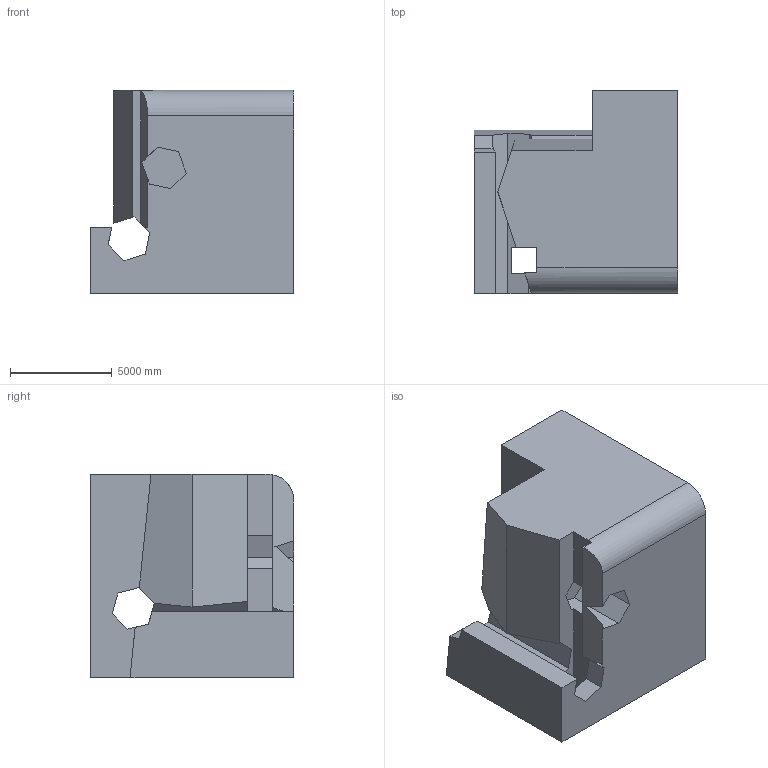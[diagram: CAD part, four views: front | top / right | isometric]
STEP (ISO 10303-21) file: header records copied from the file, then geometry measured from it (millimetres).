
FILE_DESCRIPTION (( 'STEP AP203' ), '1' );
FILE_NAME ('1811.STEP', '2022-08-26T14:55:20', ( 'user' ), ( '' ), 'SwSTEP 2.0', 'SolidWorks 2021', '' );
FILE_SCHEMA (( 'CONFIG_CONTROL_DESIGN' ));
Length unit declared in the file: centimetre
Products named in the file (1): 1811
Bounding box: 10000 x 10000 x 10000 mm (x, y, z)
Volume: 679517543309.2 mm3; surface area: 663851704.9 mm2
Topology: 1 solids, 1 shells, 53 faces, 165 edges, 110 vertices
Faces by surface type: plane 49, cylinder 4
Entity records: 2110 total; most frequent: CARTESIAN_POINT 556, ORIENTED_EDGE 330, DIRECTION 276, EDGE_CURVE 165, LINE 152, VECTOR 152, VERTEX_POINT 110, AXIS2_PLACEMENT_3D 62
